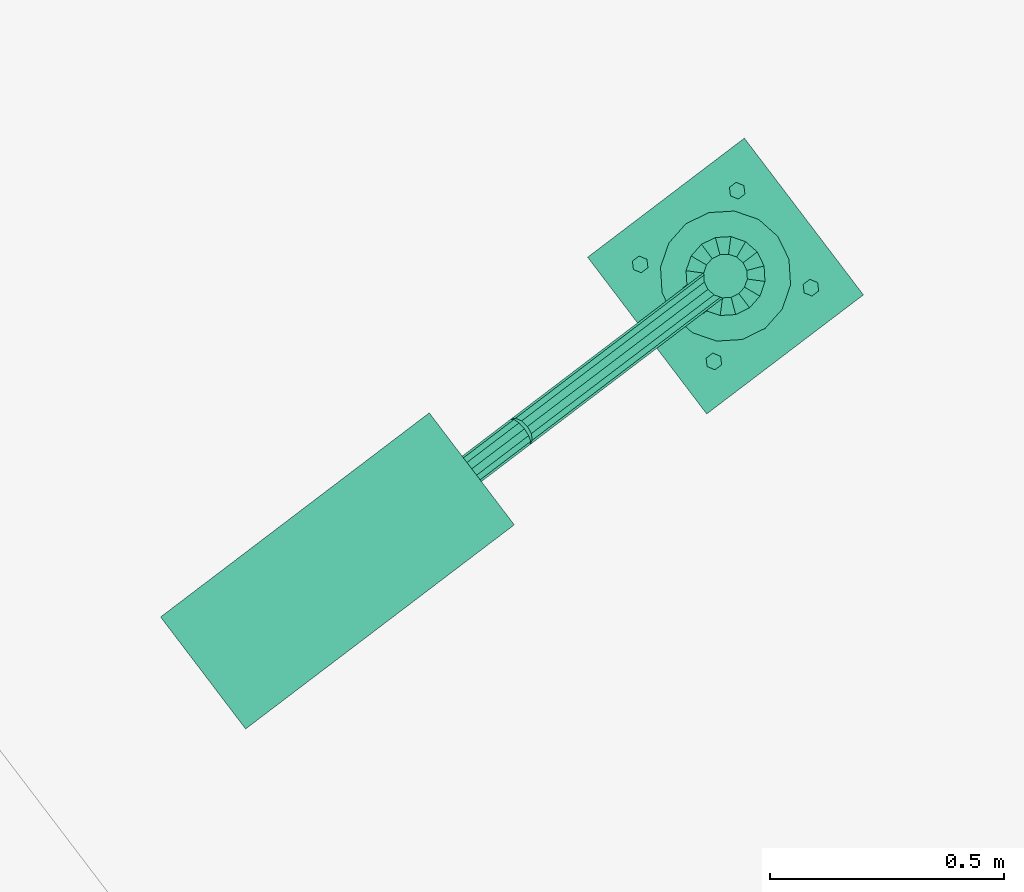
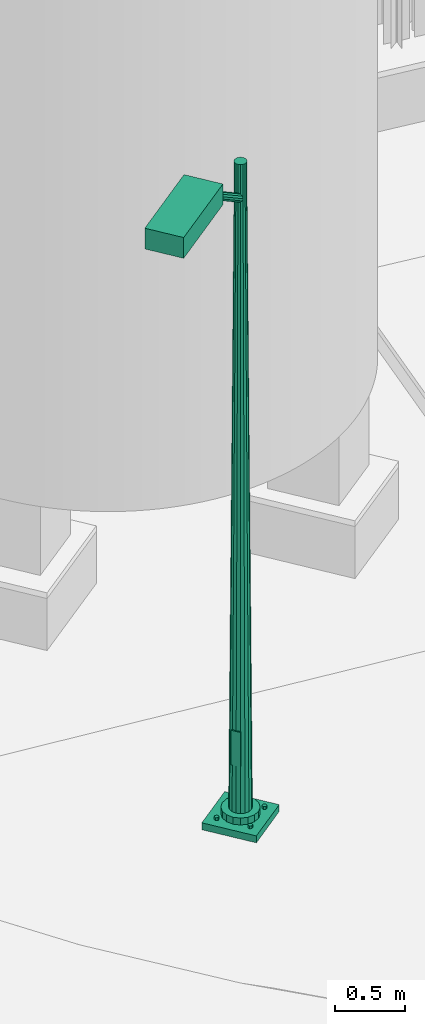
# Not in any storey, part 30 of 75: 1 light fixture.
"""IFC4 model written with IfcOpenShell, lengths in metres."""

import ifcopenshell
import ifcopenshell.guid

model = None  # the IFC model being written
_history = None  # IfcOwnerHistory: only IFC2X3 demands one
_inside = {}  # id of a spatial element -> (the spatial element, [elements in it])
_under = {}  # id of a project, library or spatial element -> (it, [spatial elements below it])
_declared = {}  # id of a project -> (the project, [libraries it declares])
_typed = {}  # id of a type object -> (the type object, [elements of that type])
_made_of = {}  # id of a material, layer set ... -> (it, [elements and type objects made of it])


def new_model(schema):
    """Start an empty IFC model of exactly this schema.

    Asked for "IFC4X3", IfcOpenShell would pick the latest addendum, in which some entities
    have other attributes; the version numbers below select the first issue.
    IFC2X3 requires an IfcOwnerHistory on every rooted entity: one is made here for all.
    """
    global model, _history
    if schema == "IFC4X3":
        model = ifcopenshell.file(schema_version=(4, 3, 0, 0))
    else:
        model = ifcopenshell.file(schema=schema)
    _inside.clear()
    _under.clear()
    _declared.clear()
    _typed.clear()
    _made_of.clear()
    _history = None
    if model.schema == "IFC2X3":
        org = make("IfcOrganization", Name="unknown")
        user = make(
            "IfcPersonAndOrganization",
            ThePerson=make("IfcPerson", FamilyName="unknown"),
            TheOrganization=org,
        )
        app = make(
            "IfcApplication",
            ApplicationDeveloper=org,
            Version="unknown",
            ApplicationFullName="unknown",
            ApplicationIdentifier="unknown",
        )
        _history = make(
            "IfcOwnerHistory",
            OwningUser=user,
            OwningApplication=app,
            ChangeAction="ADDED",
            CreationDate=0,
        )
    return model


def make(cls, **values):
    """One entity of the class cls with the attributes given. An attribute that is None is left unset."""
    return model.create_entity(
        cls, **{name: value for name, value in values.items() if value is not None}
    )


def rooted(cls, **values):
    """An entity with a GlobalId (a new one), such as an element, a storey or a relation."""
    return make(cls, GlobalId=ifcopenshell.guid.new(), OwnerHistory=_history, **values)


def si_unit(unit_type, name, prefix=None):
    """IfcSIUnit, for example si_unit("LENGTHUNIT", "METRE", prefix="MILLI")."""
    return make("IfcSIUnit", UnitType=unit_type, Prefix=prefix, Name=name)


def assignment(units):
    """IfcUnitAssignment: the units of a project."""
    return None if units is None else make("IfcUnitAssignment", Units=units)


def point(xyz):
    """IfcCartesianPoint."""
    return None if xyz is None else make("IfcCartesianPoint", Coordinates=xyz)


def direction(xyz):
    """IfcDirection."""
    return None if xyz is None else make("IfcDirection", DirectionRatios=xyz)


def frame(location, z_axis=None, x_axis=None):
    """IfcAxis2Placement3D, a coordinate frame: its origin and axes. An axis left out is left unset."""
    return make(
        "IfcAxis2Placement3D",
        Location=point(location),
        Axis=direction(z_axis),
        RefDirection=direction(x_axis),
    )


def origin():
    """The frame at (0, 0, 0) with its axes left unset."""
    return frame((0.0, 0.0, 0.0))


def origin_with_axes():
    """The frame at (0, 0, 0) with the z axis (0, 0, 1) and the x axis (1, 0, 0) written out."""
    return frame((0.0, 0.0, 0.0), z_axis=(0.0, 0.0, 1.0), x_axis=(1.0, 0.0, 0.0))


def place(relative_to, where):
    """IfcLocalPlacement: puts the frame where relative to a parent placement (None: the world)."""
    return make(
        "IfcLocalPlacement", PlacementRelTo=relative_to, RelativePlacement=where
    )


def context(
    kind, dimensions, precision=None, world=None, true_north=None, identifier=None
):
    """IfcGeometricRepresentationContext, for example the 3D "Model" context."""
    return make(
        "IfcGeometricRepresentationContext",
        ContextIdentifier=identifier,
        ContextType=kind,
        CoordinateSpaceDimension=dimensions,
        Precision=precision,
        WorldCoordinateSystem=world,
        TrueNorth=true_north,
    )


def subcontext(parent, identifier, kind, view, scale=None):
    """IfcGeometricRepresentationSubContext, for example "Body" below "Model"."""
    return make(
        "IfcGeometricRepresentationSubContext",
        ContextIdentifier=identifier,
        ContextType=kind,
        ParentContext=parent,
        TargetScale=scale,
        TargetView=view,
    )


def project(units=None, contexts=None):
    """IfcProject with its units and contexts."""
    return rooted(
        "IfcProject",
        Name="project",
        RepresentationContexts=contexts,
        UnitsInContext=assignment(units),
    )


def spatial(cls, under=None, at=None, **own):
    """A site, building, storey or space (cls), placed at a placement, below another one or the project."""
    s = rooted(cls, ObjectPlacement=at, **own)
    if under is not None:
        _under.setdefault(under.id(), (under, []))[1].append(s)
    return s


def point_list(points):
    """IfcCartesianPointList2D or 3D."""
    cls = (
        "IfcCartesianPointList2D" if len(points[0]) == 2 else "IfcCartesianPointList3D"
    )
    return make(cls, CoordList=points)


def triangles(points, corners, closed=None, point_numbers=None):
    """IfcTriangulatedFaceSet: each triangle names its three corners, points numbered from 1."""
    return make(
        "IfcTriangulatedFaceSet",
        Coordinates=point_list(points),
        Closed=closed,
        CoordIndex=corners,
        PnIndex=point_numbers,
    )


def shape(context_of_items, identifier, shape_type, items):
    """IfcShapeRepresentation: the items that make up one representation, for example the "Body"."""
    return make(
        "IfcShapeRepresentation",
        ContextOfItems=context_of_items,
        RepresentationIdentifier=identifier,
        RepresentationType=shape_type,
        Items=items,
    )


def made_of(thing, what):
    """Note that an element or type object is made of a material, layer set ...; save() writes the relation."""
    if what is not None:
        _made_of.setdefault(what.id(), (what, []))[1].append(thing)
    return thing


def element(
    cls,
    number,
    at=None,
    inside=None,
    cuts=None,
    type_object=None,
    material=None,
    context=None,
    identifier="Body",
    shape_type=None,
    held_by="IfcProductDefinitionShape",
    body=None,
    shapes=None,
    **own,
):
    """One element of the class cls, such as IfcWall. Its Tag is "e" and its number.

    at: its placement. inside: the storey or other place that contains it. cuts: it is an
    opening in that element (IfcRelVoidsElement). A single representation is given by context,
    identifier, shape_type and body (its items); several are given by shapes. held_by: the class
    of the entity that holds the representations. save() writes the other relations.
    """
    e = rooted(cls, Tag="e%d" % number, ObjectPlacement=at, **own)
    if body is not None:
        shapes = [shape(context, identifier, shape_type, body)]
    if shapes is not None:
        e.Representation = make(held_by, Representations=shapes)
    if inside is not None:
        _inside.setdefault(inside.id(), (inside, []))[1].append(e)
    if cuts is not None:
        rooted(
            "IfcRelVoidsElement", RelatingBuildingElement=cuts, RelatedOpeningElement=e
        )
    if type_object is not None:
        _typed.setdefault(type_object.id(), (type_object, []))[1].append(e)
    return made_of(e, material)


def aggregate(whole, parts):
    """IfcRelAggregates: a whole, such as a stair, and the parts it consists of."""
    return rooted("IfcRelAggregates", RelatingObject=whole, RelatedObjects=parts)


def save(model, path):
    """Write the relations noted so far, then the file.

    IfcRelAggregates (storeys below a building ...), IfcRelContainedInSpatialStructure (elements
    in a storey), IfcRelDefinesByType, IfcRelAssociatesMaterial and IfcRelDeclares: one each for
    every whole, place, type object, material and project.
    """
    for whole, parts in _under.values():
        aggregate(whole, parts)
    for where, things in _inside.values():
        rooted(
            "IfcRelContainedInSpatialStructure",
            RelatedElements=things,
            RelatingStructure=where,
        )
    for kind, things in _typed.values():
        rooted("IfcRelDefinesByType", RelatedObjects=things, RelatingType=kind)
    for what, things in _made_of.values():
        rooted("IfcRelAssociatesMaterial", RelatedObjects=things, RelatingMaterial=what)
    for by, libraries in _declared.values():
        rooted("IfcRelDeclares", RelatingContext=by, RelatedDefinitions=libraries)
    model.write(path)


model = new_model("IFC4")

# Units and contexts
model_context = context("Model", 3, precision=1e-05, world=origin_with_axes(), true_north=direction((0.0, 1.0)))
body_context = subcontext(model_context, "Body", "Model", "MODEL_VIEW")
ifc_project = project(units=[si_unit("AREAUNIT", "SQUARE_METRE"), si_unit("VOLUMEUNIT", "CUBIC_METRE"), si_unit("LENGTHUNIT", "METRE")], contexts=[model_context])

# Site
site_placement = place(None, origin_with_axes())
site = spatial("IfcSite", under=ifc_project, at=site_placement, Name="Parcela industrial Jinhong")

# Light fixture
light_fixture_placement = place(None, origin())
element("IfcLightFixture", 1, at=light_fixture_placement, inside=site, Name="Luminaria LED L07 · provisional", ObjectType="Luminaria exterior provisional", PredefinedType="USERDEFINED", context=body_context, shape_type="Tessellation", body=[
    triangles([(35.040175, 28.544255, 1.248029), (35.040175, 28.544255, 1.308029), (35.294255, 28.209825, 1.248029), (35.294255, 28.209825, 1.308029), (34.705745, 28.290175, 1.248029), (34.705745, 28.290175, 1.308029), (34.959825, 27.955745, 1.248029), (34.959825, 27.955745, 1.308029)], [[2, 4, 1], [5, 2, 1], [1, 4, 3], [3, 5, 1], [2, 8, 4], [6, 2, 5], [6, 8, 2], [4, 8, 3], [7, 5, 3], [3, 8, 7], [7, 6, 5], [8, 6, 7]], closed=True),
    triangles([(35.0, 28.25, 1.308029), (34.888523, 28.165307, 1.308029), (34.888523, 28.165307, 1.368029), (35.0, 28.25, 1.368029), (34.92942, 28.129093, 1.308029), (34.92942, 28.129093, 1.368029), (34.981061, 28.111287, 1.308029), (34.981061, 28.111287, 1.368029), (35.035586, 28.114598, 1.308029), (35.035586, 28.114598, 1.368029), (35.084693, 28.138523, 1.308029), (35.084693, 28.138523, 1.368029), (35.120907, 28.17942, 1.308029), (35.120907, 28.17942, 1.368029), (35.138713, 28.231061, 1.308029), (35.138713, 28.231061, 1.368029), (35.135402, 28.285586, 1.308029), (35.135402, 28.285586, 1.368029), (35.111477, 28.334693, 1.308029), (35.111477, 28.334693, 1.368029), (35.07058, 28.370907, 1.308029), (35.07058, 28.370907, 1.368029), (35.018939, 28.388713, 1.308029), (35.018939, 28.388713, 1.368029), (34.964414, 28.385402, 1.308029), (34.964414, 28.385402, 1.368029), (34.915307, 28.361477, 1.308029), (34.915307, 28.361477, 1.368029), (34.879093, 28.32058, 1.308029), (34.879093, 28.32058, 1.368029), (34.861287, 28.268939, 1.308029), (34.861287, 28.268939, 1.368029), (34.864598, 28.214414, 1.308029), (34.864598, 28.214414, 1.368029)], [[2, 1, 5], [2, 5, 3], [3, 5, 6], [3, 6, 4], [5, 1, 7], [5, 7, 6], [6, 7, 8], [6, 8, 4], [7, 1, 9], [7, 9, 8], [8, 9, 10], [8, 10, 4], [9, 1, 11], [9, 11, 10], [10, 11, 12], [10, 12, 4], [11, 1, 13], [11, 13, 12], [12, 13, 14], [12, 14, 4], [13, 1, 15], [13, 15, 14], [14, 15, 16], [14, 16, 4], [15, 1, 17], [15, 17, 16], [16, 17, 18], [16, 18, 4], [17, 1, 19], [17, 19, 18], [18, 19, 20], [18, 20, 4], [19, 1, 21], [19, 21, 20], [20, 21, 22], [20, 22, 4], [21, 1, 23], [21, 23, 22], [22, 23, 24], [22, 24, 4], [23, 1, 25], [23, 25, 24], [24, 25, 26], [24, 26, 4], [25, 1, 27], [25, 27, 26], [26, 27, 28], [26, 28, 4], [27, 1, 29], [27, 29, 28], [28, 29, 30], [28, 30, 4], [29, 1, 31], [29, 31, 30], [30, 31, 32], [30, 32, 4], [31, 1, 33], [31, 33, 32], [32, 33, 34], [32, 34, 4], [33, 1, 2], [33, 2, 34], [34, 2, 3], [34, 3, 4]], closed=True),
    triangles([(34.932318, 28.198579, 1.368029), (34.957148, 28.176592, 1.368029), (34.988502, 28.165781, 1.368029), (35.021606, 28.167792, 1.368029), (35.051421, 28.182318, 1.368029), (35.073408, 28.207148, 1.368029), (35.084219, 28.238502, 1.368029), (35.082208, 28.271606, 1.368029), (35.067682, 28.301421, 1.368029), (35.042852, 28.323408, 1.368029), (35.011498, 28.334219, 1.368029), (34.978394, 28.332208, 1.368029), (34.948579, 28.317682, 1.368029), (34.926592, 28.292852, 1.368029), (34.915781, 28.261498, 1.368029), (34.917792, 28.228394, 1.368029), (34.964168, 28.222777, 6.948029), (34.977313, 28.211137, 6.948029), (34.993913, 28.205414, 6.948029), (35.011438, 28.206478, 6.948029), (35.027223, 28.214168, 6.948029), (35.038863, 28.227313, 6.948029), (35.044586, 28.243913, 6.948029), (35.043522, 28.261438, 6.948029), (35.035832, 28.277223, 6.948029), (35.022687, 28.288863, 6.948029), (35.006087, 28.294586, 6.948029), (34.988562, 28.293522, 6.948029), (34.972777, 28.285832, 6.948029), (34.961137, 28.272687, 6.948029), (34.955414, 28.256087, 6.948029), (34.956478, 28.238562, 6.948029)], [[31, 14, 15], [30, 14, 31], [29, 14, 30], [13, 14, 29], [26, 10, 11], [26, 11, 27], [9, 10, 26], [26, 25, 9], [4, 10, 9], [1, 16, 4], [13, 12, 4], [4, 6, 5], [9, 8, 4], [4, 2, 1], [4, 16, 15], [3, 2, 4], [4, 12, 11], [11, 10, 4], [4, 14, 13], [15, 14, 4], [7, 6, 4], [4, 8, 7], [1, 2, 18], [18, 17, 1], [32, 16, 1], [1, 17, 32], [15, 16, 32], [32, 31, 15], [11, 12, 28], [27, 11, 28], [28, 12, 13], [13, 29, 28], [21, 4, 5], [20, 4, 21], [7, 8, 24], [23, 7, 24], [9, 25, 24], [24, 8, 9], [3, 4, 19], [19, 4, 20], [19, 2, 3], [19, 18, 2], [22, 32, 17], [22, 26, 27], [17, 18, 22], [22, 19, 20], [27, 28, 22], [30, 31, 22], [22, 29, 30], [25, 26, 22], [23, 24, 22], [31, 32, 22], [22, 28, 29], [20, 21, 22], [22, 24, 25], [18, 19, 22], [22, 6, 7], [22, 7, 23], [5, 6, 22], [22, 21, 5]], closed=True),
    triangles([(35.0, 28.25, 6.948029), (34.962576, 28.221567, 6.948029), (34.962576, 28.221567, 6.968029), (35.0, 28.25, 6.968029), (34.976305, 28.20941, 6.948029), (34.976305, 28.20941, 6.968029), (34.993642, 28.203432, 6.948029), (34.993642, 28.203432, 6.968029), (35.011947, 28.204544, 6.948029), (35.011947, 28.204544, 6.968029), (35.028433, 28.212576, 6.948029), (35.028433, 28.212576, 6.968029), (35.04059, 28.226305, 6.948029), (35.04059, 28.226305, 6.968029), (35.046568, 28.243642, 6.948029), (35.046568, 28.243642, 6.968029), (35.045456, 28.261947, 6.948029), (35.045456, 28.261947, 6.968029), (35.037424, 28.278433, 6.948029), (35.037424, 28.278433, 6.968029), (35.023695, 28.29059, 6.948029), (35.023695, 28.29059, 6.968029), (35.006358, 28.296568, 6.948029), (35.006358, 28.296568, 6.968029), (34.988053, 28.295456, 6.948029), (34.988053, 28.295456, 6.968029), (34.971567, 28.287424, 6.948029), (34.971567, 28.287424, 6.968029), (34.95941, 28.273695, 6.948029), (34.95941, 28.273695, 6.968029), (34.953432, 28.256358, 6.948029), (34.953432, 28.256358, 6.968029), (34.954544, 28.238053, 6.948029), (34.954544, 28.238053, 6.968029)], [[2, 1, 5], [2, 5, 3], [3, 5, 6], [3, 6, 4], [5, 1, 7], [5, 7, 6], [6, 7, 8], [6, 8, 4], [7, 1, 9], [7, 9, 8], [8, 9, 10], [8, 10, 4], [9, 1, 11], [9, 11, 10], [10, 11, 12], [10, 12, 4], [11, 1, 13], [11, 13, 12], [12, 13, 14], [12, 14, 4], [13, 1, 15], [13, 15, 14], [14, 15, 16], [14, 16, 4], [15, 1, 17], [15, 17, 16], [16, 17, 18], [16, 18, 4], [17, 1, 19], [17, 19, 18], [18, 19, 20], [18, 20, 4], [19, 1, 21], [19, 21, 20], [20, 21, 22], [20, 22, 4], [21, 1, 23], [21, 23, 22], [22, 23, 24], [22, 24, 4], [23, 1, 25], [23, 25, 24], [24, 25, 26], [24, 26, 4], [25, 1, 27], [25, 27, 26], [26, 27, 28], [26, 28, 4], [27, 1, 29], [27, 29, 28], [28, 29, 30], [28, 30, 4], [29, 1, 31], [29, 31, 30], [30, 31, 32], [30, 32, 4], [31, 1, 33], [31, 33, 32], [32, 33, 34], [32, 34, 4], [33, 1, 2], [33, 2, 34], [34, 2, 3], [34, 3, 4]], closed=True),
    triangles([(35.02487, 28.432158, 1.308029), (35.010538, 28.421269, 1.308029), (35.010538, 28.421269, 1.333029), (35.02487, 28.432158, 1.333029), (35.027134, 28.414301, 1.308029), (35.027134, 28.414301, 1.333029), (35.041467, 28.42519, 1.308029), (35.041467, 28.42519, 1.333029), (35.039203, 28.443047, 1.308029), (35.039203, 28.443047, 1.333029), (35.022606, 28.450015, 1.308029), (35.022606, 28.450015, 1.333029), (35.008274, 28.439126, 1.308029), (35.008274, 28.439126, 1.333029)], [[2, 1, 5], [2, 5, 3], [3, 5, 6], [3, 6, 4], [5, 1, 7], [5, 7, 6], [6, 7, 8], [6, 8, 4], [7, 1, 9], [7, 9, 8], [8, 9, 10], [8, 10, 4], [9, 1, 11], [9, 11, 10], [10, 11, 12], [10, 12, 4], [11, 1, 13], [11, 13, 12], [12, 13, 14], [12, 14, 4], [13, 1, 2], [13, 2, 14], [14, 2, 3], [14, 3, 4]], closed=True),
    triangles([(35.182158, 28.22513, 1.308029), (35.167825, 28.214241, 1.308029), (35.167825, 28.214241, 1.333029), (35.182158, 28.22513, 1.333029), (35.184422, 28.207273, 1.308029), (35.184422, 28.207273, 1.333029), (35.198754, 28.218162, 1.308029), (35.198754, 28.218162, 1.333029), (35.196491, 28.236019, 1.308029), (35.196491, 28.236019, 1.333029), (35.179894, 28.242987, 1.308029), (35.179894, 28.242987, 1.333029), (35.165561, 28.232098, 1.308029), (35.165561, 28.232098, 1.333029)], [[2, 1, 5], [2, 5, 3], [3, 5, 6], [3, 6, 4], [5, 1, 7], [5, 7, 6], [6, 7, 8], [6, 8, 4], [7, 1, 9], [7, 9, 8], [8, 9, 10], [8, 10, 4], [9, 1, 11], [9, 11, 10], [10, 11, 12], [10, 12, 4], [11, 1, 13], [11, 13, 12], [12, 13, 14], [12, 14, 4], [13, 1, 2], [13, 2, 14], [14, 2, 3], [14, 3, 4]], closed=True),
    triangles([(34.817842, 28.27487, 1.308029), (34.803509, 28.263981, 1.308029), (34.803509, 28.263981, 1.333029), (34.817842, 28.27487, 1.333029), (34.820106, 28.257013, 1.308029), (34.820106, 28.257013, 1.333029), (34.834439, 28.267902, 1.308029), (34.834439, 28.267902, 1.333029), (34.832175, 28.285759, 1.308029), (34.832175, 28.285759, 1.333029), (34.815578, 28.292727, 1.308029), (34.815578, 28.292727, 1.333029), (34.801246, 28.281838, 1.308029), (34.801246, 28.281838, 1.333029)], [[2, 1, 5], [2, 5, 3], [3, 5, 6], [3, 6, 4], [5, 1, 7], [5, 7, 6], [6, 7, 8], [6, 8, 4], [7, 1, 9], [7, 9, 8], [8, 9, 10], [8, 10, 4], [9, 1, 11], [9, 11, 10], [10, 11, 12], [10, 12, 4], [11, 1, 13], [11, 13, 12], [12, 13, 14], [12, 14, 4], [13, 1, 2], [13, 2, 14], [14, 2, 3], [14, 3, 4]], closed=True),
    triangles([(34.97513, 28.067842, 1.308029), (34.960797, 28.056953, 1.308029), (34.960797, 28.056953, 1.333029), (34.97513, 28.067842, 1.333029), (34.977394, 28.049985, 1.308029), (34.977394, 28.049985, 1.333029), (34.991726, 28.060874, 1.308029), (34.991726, 28.060874, 1.333029), (34.989462, 28.078731, 1.308029), (34.989462, 28.078731, 1.333029), (34.972866, 28.085699, 1.308029), (34.972866, 28.085699, 1.333029), (34.958533, 28.07481, 1.308029), (34.958533, 28.07481, 1.333029)], [[2, 1, 5], [2, 5, 3], [3, 5, 6], [3, 6, 4], [5, 1, 7], [5, 7, 6], [6, 7, 8], [6, 8, 4], [7, 1, 9], [7, 9, 8], [8, 9, 10], [8, 10, 4], [9, 1, 11], [9, 11, 10], [10, 11, 12], [10, 12, 4], [11, 1, 13], [11, 13, 12], [12, 13, 14], [12, 14, 4], [13, 1, 2], [13, 2, 14], [14, 2, 3], [14, 3, 4]], closed=True),
    triangles([(34.919107, 28.232498, 1.778029), (34.919107, 28.232498, 2.078029), (34.961454, 28.176759, 1.778029), (34.961454, 28.176759, 2.078029), (34.909552, 28.225238, 1.778029), (34.909552, 28.225238, 2.078029), (34.951899, 28.1695, 1.778029), (34.951899, 28.1695, 2.078029)], [[2, 4, 1], [5, 2, 1], [1, 4, 3], [3, 5, 1], [2, 8, 4], [6, 2, 5], [6, 8, 2], [4, 8, 3], [7, 5, 3], [3, 8, 7], [7, 6, 5], [8, 6, 7]], closed=True),
    triangles([(35.0, 28.25, 6.648029), (34.984611, 28.238308, 6.620056), (34.546667, 27.905585, 7.000056), (34.562056, 27.917276, 7.028029), (34.996957, 28.226338, 6.623804), (34.559013, 27.893615, 7.003804), (35.010118, 28.220708, 6.634042), (34.572174, 27.887985, 7.014042), (35.020568, 28.222927, 6.648029), (34.582624, 27.890203, 7.028029), (35.025507, 28.2324, 6.662015), (34.587563, 27.899676, 7.042015), (35.023612, 28.246589, 6.672254), (34.585668, 27.913865, 7.052254), (35.015389, 28.261692, 6.676002), (34.577445, 27.928968, 7.056002), (35.003043, 28.273662, 6.672254), (34.565099, 27.940938, 7.052254), (34.989882, 28.279292, 6.662015), (34.551938, 27.946568, 7.042015), (34.979432, 28.277073, 6.648029), (34.541488, 27.944349, 7.028029), (34.974493, 28.2676, 6.634042), (34.536549, 27.934876, 7.014042), (34.976388, 28.253411, 6.623804), (34.538444, 27.920687, 7.003804)], [[2, 1, 5], [2, 5, 3], [3, 5, 6], [3, 6, 4], [5, 1, 7], [5, 7, 6], [6, 7, 8], [6, 8, 4], [7, 1, 9], [7, 9, 8], [8, 9, 10], [8, 10, 4], [9, 1, 11], [9, 11, 10], [10, 11, 12], [10, 12, 4], [11, 1, 13], [11, 13, 12], [12, 13, 14], [12, 14, 4], [13, 1, 15], [13, 15, 14], [14, 15, 16], [14, 16, 4], [15, 1, 17], [15, 17, 16], [16, 17, 18], [16, 18, 4], [17, 1, 19], [17, 19, 18], [18, 19, 20], [18, 20, 4], [19, 1, 21], [19, 21, 20], [20, 21, 22], [20, 22, 4], [21, 1, 23], [21, 23, 22], [22, 23, 24], [22, 24, 4], [23, 1, 25], [23, 25, 24], [24, 25, 26], [24, 26, 4], [25, 1, 2], [25, 2, 26], [26, 2, 3], [26, 3, 4]], closed=True),
    triangles([(34.562056, 27.917276, 7.028029), (34.553276, 27.910606, 6.995867), (34.274584, 27.698872, 7.115867), (34.283364, 27.705543, 7.148029), (34.564736, 27.897963, 7.000176), (34.286044, 27.68623, 7.120176), (34.575479, 27.890495, 7.011948), (34.296787, 27.678762, 7.131948), (34.582624, 27.890203, 7.028029), (34.303933, 27.67847, 7.148029), (34.584259, 27.897166, 7.04411), (34.305567, 27.685433, 7.16411), (34.579944, 27.909517, 7.055882), (34.301253, 27.697784, 7.175882), (34.570836, 27.923947, 7.060191), (34.292145, 27.712214, 7.180191), (34.559376, 27.93659, 7.055882), (34.280684, 27.724857, 7.175882), (34.548633, 27.944058, 7.04411), (34.269942, 27.732324, 7.16411), (34.541488, 27.944349, 7.028029), (34.262796, 27.732616, 7.148029), (34.539853, 27.937387, 7.011948), (34.261161, 27.725654, 7.131948), (34.544168, 27.925036, 7.000176), (34.265476, 27.713302, 7.120176)], [[2, 1, 5], [2, 5, 3], [3, 5, 6], [3, 6, 4], [5, 1, 7], [5, 7, 6], [6, 7, 8], [6, 8, 4], [7, 1, 9], [7, 9, 8], [8, 9, 10], [8, 10, 4], [9, 1, 11], [9, 11, 10], [10, 11, 12], [10, 12, 4], [11, 1, 13], [11, 13, 12], [12, 13, 14], [12, 14, 4], [13, 1, 15], [13, 15, 14], [14, 15, 16], [14, 16, 4], [15, 1, 17], [15, 17, 16], [16, 17, 18], [16, 18, 4], [17, 1, 19], [17, 19, 18], [18, 19, 20], [18, 20, 4], [19, 1, 21], [19, 21, 20], [20, 21, 22], [20, 22, 4], [21, 1, 23], [21, 23, 22], [22, 23, 24], [22, 24, 4], [23, 1, 25], [23, 25, 24], [24, 25, 26], [24, 26, 4], [25, 1, 2], [25, 2, 26], [26, 2, 3], [26, 3, 4]], closed=True),
    triangles([(34.367799, 27.958072, 7.068029), (34.367799, 27.958072, 7.248029), (34.549285, 27.719193, 7.068029), (34.549285, 27.719193, 7.248029), (33.794491, 27.522506, 7.068029), (33.794491, 27.522506, 7.248029), (33.975976, 27.283628, 7.068029), (33.975976, 27.283628, 7.248029)], [[2, 4, 1], [5, 2, 1], [1, 4, 3], [3, 5, 1], [2, 8, 4], [6, 2, 5], [6, 8, 2], [4, 8, 3], [7, 5, 3], [3, 8, 7], [7, 6, 5], [8, 6, 7]], closed=True),
    triangles([(34.344221, 27.889924, 7.043029), (34.344221, 27.889924, 7.068029), (34.477311, 27.714747, 7.043029), (34.477311, 27.714747, 7.068029), (33.866464, 27.526953, 7.043029), (33.866464, 27.526953, 7.068029), (33.999554, 27.351775, 7.043029), (33.999554, 27.351775, 7.068029)], [[2, 4, 1], [5, 2, 1], [1, 4, 3], [3, 5, 1], [2, 8, 4], [6, 2, 5], [6, 8, 2], [4, 8, 3], [7, 5, 3], [3, 8, 7], [7, 6, 5], [8, 6, 7]], closed=True),
])

save(model, "model.ifc")
